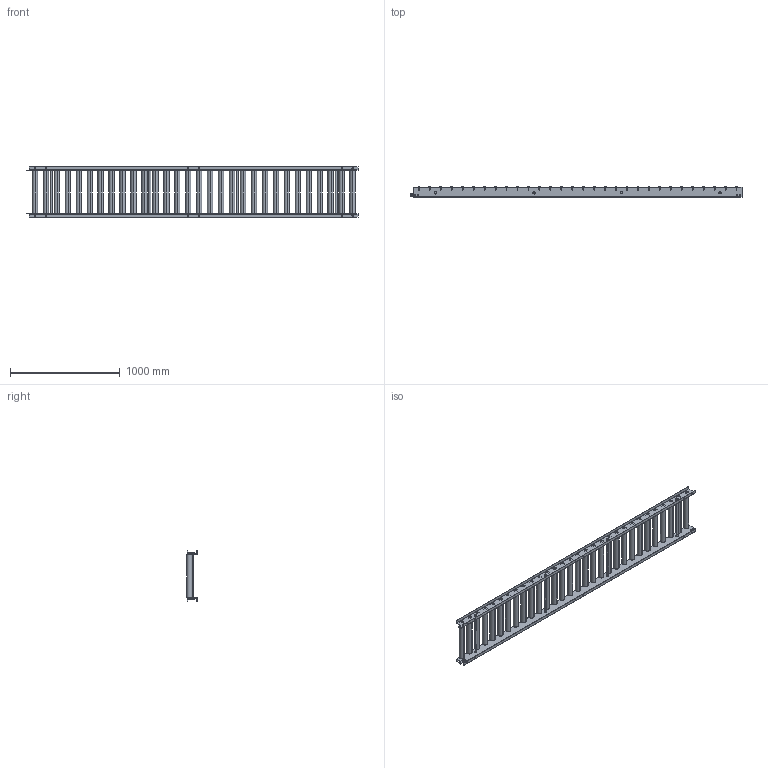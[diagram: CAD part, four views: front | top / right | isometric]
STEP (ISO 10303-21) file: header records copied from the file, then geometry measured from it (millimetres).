
FILE_DESCRIPTION (( 'STEP AP203' ), '1' );
FILE_NAME ('S-4814P.step', '2024-02-26T06:41:46', ( '' ), ( '' ), 'SwSTEP 2.0', 'SolidWorks 2023', '' );
FILE_SCHEMA (( 'CONFIG_CONTROL_DESIGN' ));
Length unit declared in the file: millimetre
Products named in the file (1): S-4814P
Bounding box: 3031.5 x 95.8 x 460 mm (x, y, z)
Volume: 23074884.8 mm3; surface area: 5128672.7 mm2
Topology: 84 solids, 84 shells, 1730 faces, 4282 edges, 2788 vertices
Faces by surface type: plane 952, cylinder 610, torus 120, cone 48
Entity records: 52781 total; most frequent: DIRECTION 9604, CARTESIAN_POINT 9473, ORIENTED_EDGE 8564, EDGE_CURVE 4282, AXIS2_PLACEMENT_3D 3719, VERTEX_POINT 2788, LINE 2166, VECTOR 2166
